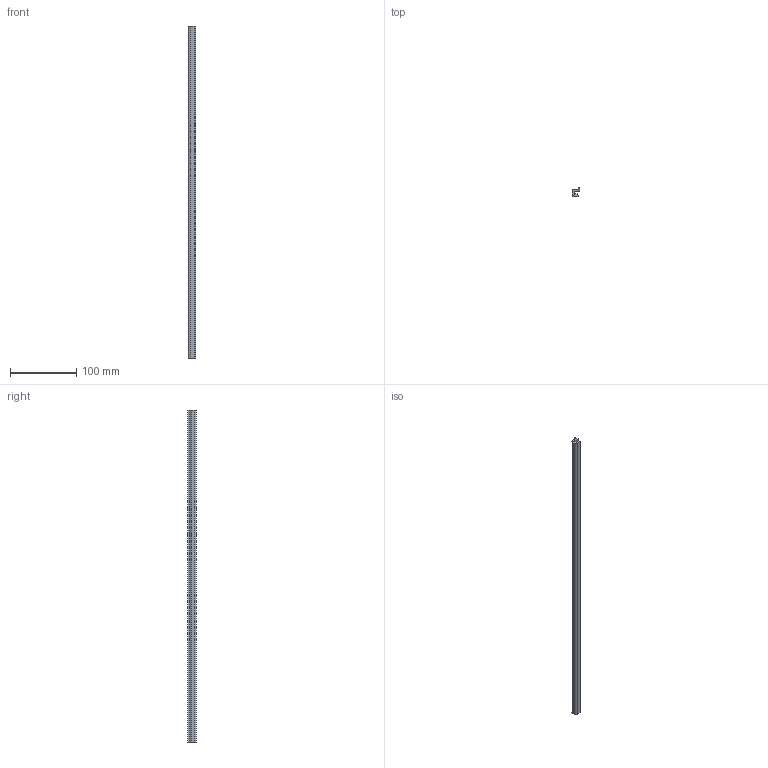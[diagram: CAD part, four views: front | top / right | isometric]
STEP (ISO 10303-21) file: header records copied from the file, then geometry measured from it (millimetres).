
FILE_DESCRIPTION (( 'STEP AP214' ), '1' );
FILE_NAME ('R1PGR3.STEP', '2011-05-09T07:00:19', ( '.' ), ( '' ), 'SwSTEP 2.0', 'SolidWorks 2010', '' );
FILE_SCHEMA (( 'AUTOMOTIVE_DESIGN' ));
Length unit declared in the file: millimetre
Products named in the file (1): R1PGR3
Bounding box: 11.9 x 13 x 500 mm (x, y, z)
Volume: 39268.9 mm3; surface area: 29815.9 mm2
Topology: 1 solids, 1 shells, 17 faces, 45 edges, 30 vertices
Faces by surface type: plane 14, cylinder 3
Entity records: 559 total; most frequent: CARTESIAN_POINT 93, ORIENTED_EDGE 90, DIRECTION 87, EDGE_CURVE 45, VECTOR 39, LINE 39, VERTEX_POINT 30, AXIS2_PLACEMENT_3D 24
